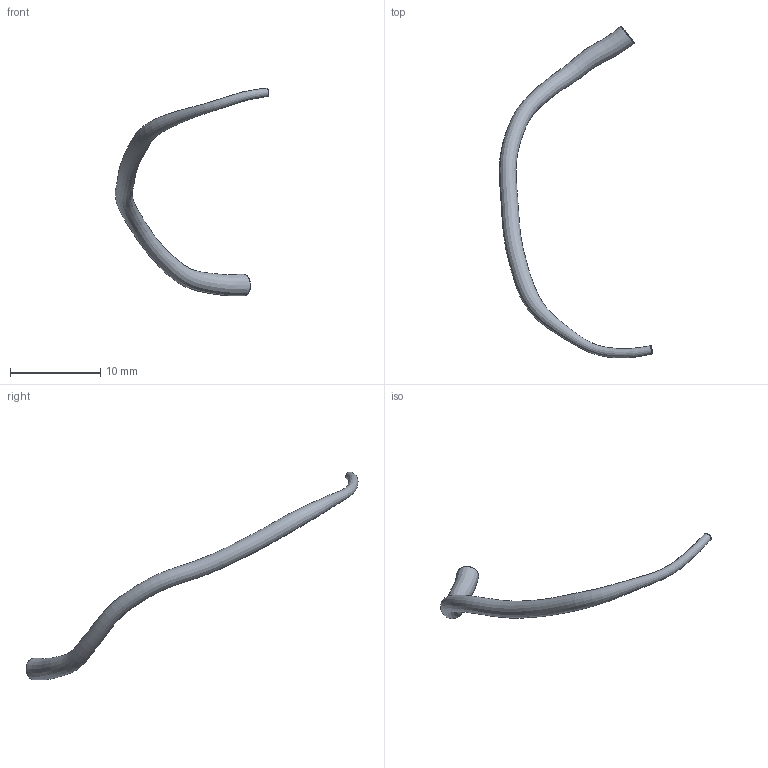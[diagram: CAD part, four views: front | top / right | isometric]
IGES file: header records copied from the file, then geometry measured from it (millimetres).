
Global section: file name: C:\Documents and Settings\Administrator\Desktop\FDA-Pig\Domestic LCA\Pig_000004\lcx.seg.ed.igs; native system: Rhinoceros ( May 19 2006 ); preprocessor: Trout Lake IGES 012 May 19 2006; date: 111205.183146; units: centimetre
Bounding box: 17.03 x 36.86 x 23.08 mm (x, y, z)
Surface area: 602.5 mm2 (no closed solid volume)
Topology: 0 solids, 0 shells, 4 faces, 13 edges, 10 vertices
Faces by surface type: bspline 4
